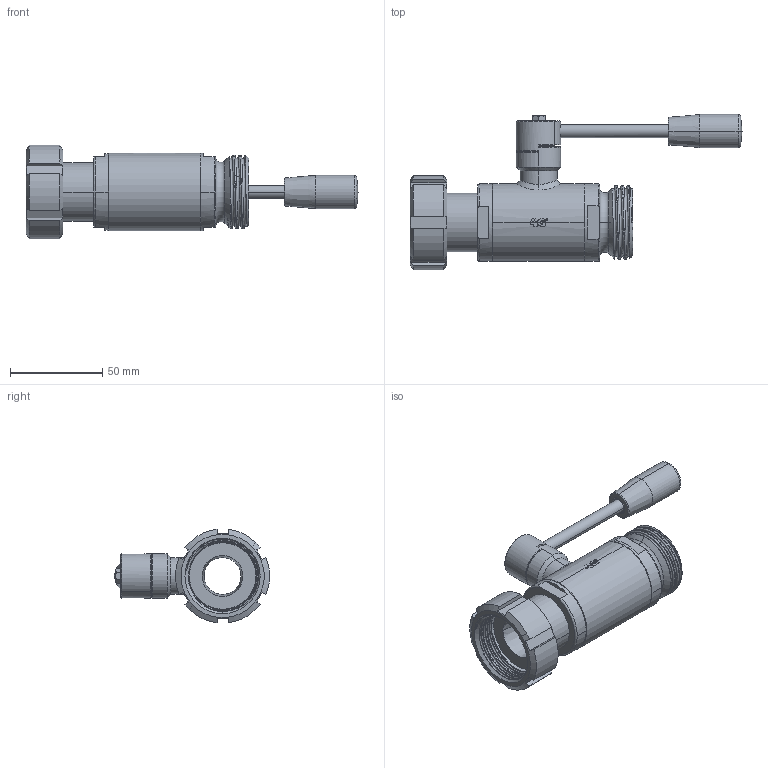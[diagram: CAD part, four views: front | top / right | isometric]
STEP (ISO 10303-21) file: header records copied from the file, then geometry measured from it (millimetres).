
FILE_DESCRIPTION((''),'2;1');
FILE_NAME('10014562410_SW0002','2025-03-27T09:29:47',('tecnico2'),('CDM Tecnoconsulting'),'CREO PARAMETRIC BY PTC INC, 2024063','CREO PARAMETRIC BY PTC INC, 2024063','');
FILE_SCHEMA(('CONFIG_CONTROL_DESIGN','SHAPE_APPEARANCE_LAYERS_GROUPS'));
Products named in the file (1): 10014562410_SW0002
Bounding box: 179.5 x 83.87 x 50.65 mm (x, y, z)
Volume: 129811.9 mm3; surface area: 51767.9 mm2
Topology: 1 solids, 1 shells, 824 faces, 2238 edges, 1440 vertices
Faces by surface type: plane 337, extrusion 150, cylinder 141, cone 111, bspline 55, torus 24, sphere 6
Entity records: 56661 total; most frequent: CARTESIAN_POINT 27910, ORIENTED_EDGE 4444, DIRECTION 3409, PRESENTATION_STYLE_ASSIGNMENT 2618, STYLED_ITEM 2317, CURVE_STYLE 2316, EDGE_CURVE 2222, VERTEX_POINT 1440
